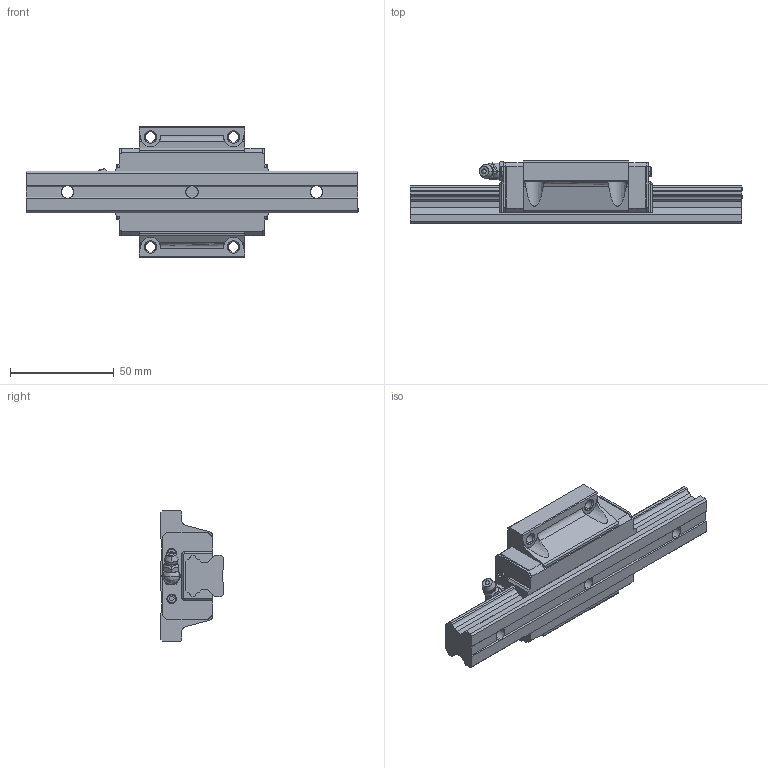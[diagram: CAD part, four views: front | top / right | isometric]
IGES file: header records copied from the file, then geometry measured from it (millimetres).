
Start section: SolidWorks IGES file using analytic representation for surfaces
Global section: file name: D:\Qsync\EOS Design B.V\Projecten\LM Systems\Models HSV\FINISHED\HSV20CSS.IGS; native system: SolidWorks 2016; preprocessor: SolidWorks 2016; author: EOS; date: 160314.144243; units: millimetre
Bounding box: 160 x 30 x 63 mm (x, y, z)
Surface area: 31334.6 mm2 (no closed solid volume)
Topology: 0 solids, 0 shells, 313 faces, 3312 edges, 3304 vertices
Faces by surface type: bspline 219, revolution 94
